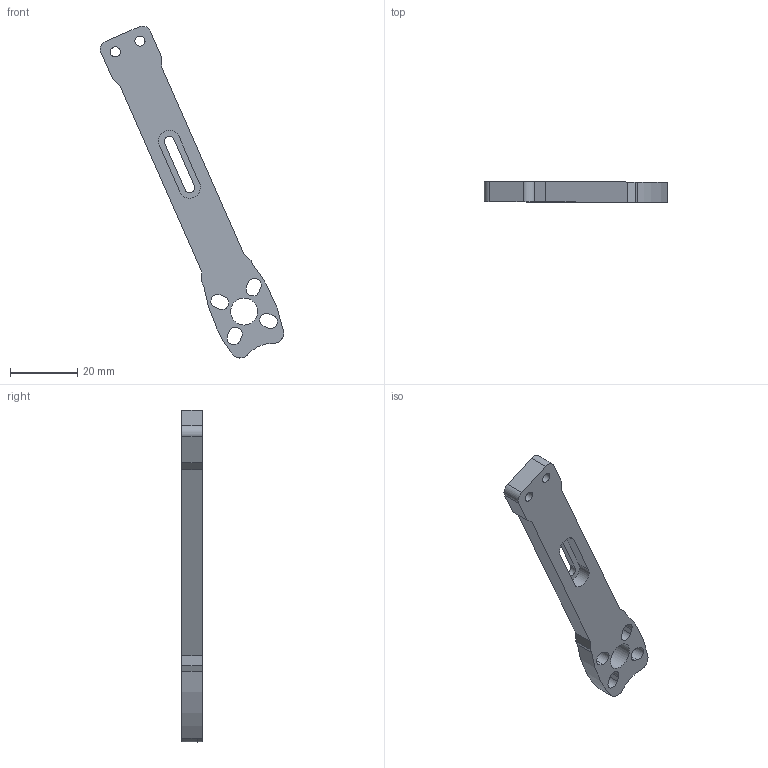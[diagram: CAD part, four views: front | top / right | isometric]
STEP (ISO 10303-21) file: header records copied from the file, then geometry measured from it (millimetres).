
FILE_DESCRIPTION(/* description */ (''),/* implementation_level */ '2;1');
FILE_NAME(/* name */ 'C:/Users/Administrator/Desktop/电机支架.step',/* time_stamp */ '2022-06-02T09:48:07+08:00',/* author */ (''),/* organization */ (''),/* preprocessor_version */ 'ST-DEVELOPER v19',/* originating_system */ 'Autodesk Translation Framework v11.7.0.108',/* authorisation */ '');
FILE_SCHEMA (('AUTOMOTIVE_DESIGN { 1 0 10303 214 3 1 1 }'));
Length unit declared in the file: millimetre
Products named in the file (1): 四旋翼无人机
Bounding box: 54.5 x 6 x 98.6 mm (x, y, z)
Volume: 7696 mm3; surface area: 4984.6 mm2
Topology: 1 solids, 1 shells, 50 faces, 141 edges, 94 vertices
Faces by surface type: plane 26, cylinder 18, bspline 6
Full cylindrical faces by diameter (mm): 3 x2, 8 x1
Entity records: 1831 total; most frequent: CARTESIAN_POINT 478, ORIENTED_EDGE 282, DIRECTION 261, EDGE_CURVE 141, VERTEX_POINT 94, LINE 91, VECTOR 91, AXIS2_PLACEMENT_3D 85
